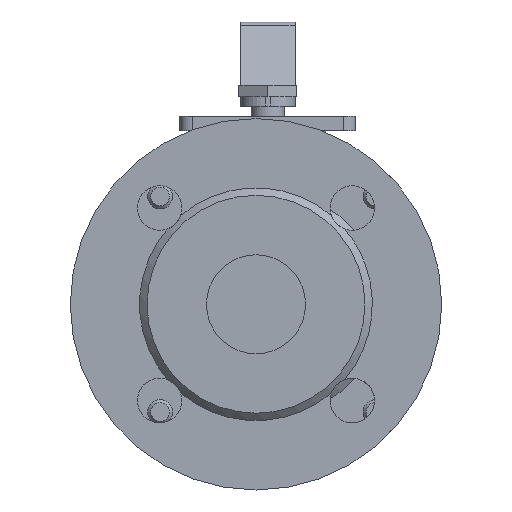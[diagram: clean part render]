
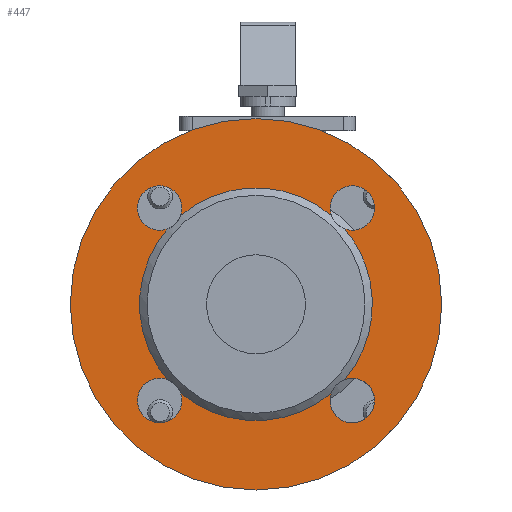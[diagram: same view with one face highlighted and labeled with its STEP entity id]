
A CAD part, left-side view. The second image highlights one B-rep face of the part: STEP entity #447.
In plain terms, the highlighted planar face has unit normal (-1, 0, 0).
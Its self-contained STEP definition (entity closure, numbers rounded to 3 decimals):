
#447=ADVANCED_FACE('',(#9442,#9444),#9446,.T.);
#9442=FACE_BOUND('',#9443,.T.);
#9443=EDGE_LOOP('',(#16508,#16509));
#9444=FACE_BOUND('',#9445,.T.);
#9445=EDGE_LOOP('',(#16510,#16511,#16512,#16513,#16514,#16515,#16516,#16517,#16518,
#16519,#16520,#16521));
#9446=PLANE('',#9447);
#9447=AXIS2_PLACEMENT_3D('',#9448,#9449,#9450);
#9448=CARTESIAN_POINT('',(6189.132,3957.673,54.248));
#9449=DIRECTION('',(-1.,0.,0.));
#9450=DIRECTION('',(0.,0.,1.));
#16508=ORIENTED_EDGE('',*,*,#22187,.F.);
#16509=ORIENTED_EDGE('',*,*,#22188,.F.);
#16510=ORIENTED_EDGE('',*,*,#22170,.T.);
#16511=ORIENTED_EDGE('',*,*,#22169,.T.);
#16512=ORIENTED_EDGE('',*,*,#22189,.T.);
#16513=ORIENTED_EDGE('',*,*,#22179,.T.);
#16514=ORIENTED_EDGE('',*,*,#22181,.T.);
#16515=ORIENTED_EDGE('',*,*,#22190,.T.);
#16516=ORIENTED_EDGE('',*,*,#22176,.T.);
#16517=ORIENTED_EDGE('',*,*,#22191,.T.);
#16518=ORIENTED_EDGE('',*,*,#22186,.T.);
#16519=ORIENTED_EDGE('',*,*,#22185,.T.);
#16520=ORIENTED_EDGE('',*,*,#22192,.T.);
#16521=ORIENTED_EDGE('',*,*,#22193,.T.);
#22169=EDGE_CURVE('',#25077,#25078,#25079,.T.);
#22170=EDGE_CURVE('',#25080,#25077,#25081,.T.);
#22176=EDGE_CURVE('',#25088,#25090,#25092,.T.);
#22179=EDGE_CURVE('',#25097,#25098,#25099,.T.);
#22181=EDGE_CURVE('',#25098,#25100,#25102,.T.);
#22185=EDGE_CURVE('',#25110,#25107,#25111,.T.);
#22186=EDGE_CURVE('',#25108,#25110,#25112,.T.);
#22187=EDGE_CURVE('',#25113,#25114,#25115,.T.);
#22188=EDGE_CURVE('',#25114,#25113,#25116,.T.);
#22189=EDGE_CURVE('',#25078,#25097,#25117,.T.);
#22190=EDGE_CURVE('',#25100,#25088,#25118,.T.);
#22191=EDGE_CURVE('',#25090,#25108,#25119,.T.);
#22192=EDGE_CURVE('',#25107,#25120,#25121,.T.);
#22193=EDGE_CURVE('',#25120,#25080,#25122,.T.);
#25077=VERTEX_POINT('',#30371);
#25078=VERTEX_POINT('',#30372);
#25079=CIRCLE('',#30373,9.);
#25080=VERTEX_POINT('',#30377);
#25081=CIRCLE('',#30378,9.);
#25088=VERTEX_POINT('',#30464);
#25090=VERTEX_POINT('',#30531);
#25092=CIRCLE('',#30548,9.);
#25097=VERTEX_POINT('',#30562);
#25098=VERTEX_POINT('',#30563);
#25099=CIRCLE('',#30564,9.);
#25100=VERTEX_POINT('',#30568);
#25102=CIRCLE('',#30640,9.);
#25107=VERTEX_POINT('',#30654);
#25108=VERTEX_POINT('',#30655);
#25110=VERTEX_POINT('',#30727);
#25111=CIRCLE('',#30728,9.);
#25112=CIRCLE('',#30732,9.);
#25113=VERTEX_POINT('',#30736);
#25114=VERTEX_POINT('',#30737);
#25115=CIRCLE('',#30738,75.);
#25116=CIRCLE('',#30742,75.);
#25117=CIRCLE('',#30746,47.);
#25118=CIRCLE('',#30750,47.);
#25119=CIRCLE('',#30754,47.);
#25120=VERTEX_POINT('',#30758);
#25121=CIRCLE('',#30759,47.);
#25122=CIRCLE('',#30763,47.);
#30371=CARTESIAN_POINT('',(6189.132,3923.946,-67.013));
#30372=CARTESIAN_POINT('',(6189.132,3927.241,-56.569));
#30373=AXIS2_PLACEMENT_3D('',#30374,#30375,#30376);
#30374=CARTESIAN_POINT('',(6189.132,3918.782,-59.642));
#30375=DIRECTION('',(1.,0.,0.));
#30376=DIRECTION('',(0.,0.574,-0.819));
#30377=CARTESIAN_POINT('',(6189.132,3921.855,-51.183));
#30378=AXIS2_PLACEMENT_3D('',#30379,#30380,#30381);
#30379=CARTESIAN_POINT('',(6189.132,3918.782,-59.642));
#30380=DIRECTION('',(1.,0.,0.));
#30381=DIRECTION('',(0.,0.341,0.94));
#30464=CARTESIAN_POINT('',(6189.132,3993.49,9.68));
#30531=CARTESIAN_POINT('',(6189.132,3988.105,15.066));
#30548=AXIS2_PLACEMENT_3D('',#30549,#30550,#30551);
#30549=CARTESIAN_POINT('',(6189.132,3996.564,18.139));
#30550=DIRECTION('',(1.,0.,0.));
#30551=DIRECTION('',(0.,-0.341,-0.94));
#30562=CARTESIAN_POINT('',(6189.132,3988.105,-56.569));
#30563=CARTESIAN_POINT('',(6189.132,4005.427,-61.203));
#30564=AXIS2_PLACEMENT_3D('',#30565,#30566,#30567);
#30565=CARTESIAN_POINT('',(6189.132,3996.564,-59.642));
#30566=DIRECTION('',(1.,0.,0.));
#30567=DIRECTION('',(0.,-0.94,0.341));
#30568=CARTESIAN_POINT('',(6189.132,3993.49,-51.183));
#30640=AXIS2_PLACEMENT_3D('',#30641,#30642,#30643);
#30641=CARTESIAN_POINT('',(6189.132,3996.564,-59.642));
#30642=DIRECTION('',(1.,0.,0.));
#30643=DIRECTION('',(0.,0.985,-0.173));
#30654=CARTESIAN_POINT('',(6189.132,3921.855,9.68));
#30655=CARTESIAN_POINT('',(6189.132,3927.241,15.066));
#30727=CARTESIAN_POINT('',(6189.132,3917.222,9.276));
#30728=AXIS2_PLACEMENT_3D('',#30729,#30730,#30731);
#30729=CARTESIAN_POINT('',(6189.132,3918.782,18.139));
#30730=DIRECTION('',(1.,0.,0.));
#30731=DIRECTION('',(0.,-0.173,-0.985));
#30732=AXIS2_PLACEMENT_3D('',#30733,#30734,#30735);
#30733=CARTESIAN_POINT('',(6189.132,3918.782,18.139));
#30734=DIRECTION('',(1.,0.,0.));
#30735=DIRECTION('',(0.,0.94,-0.341));
#30736=CARTESIAN_POINT('',(6189.132,3957.673,-95.752));
#30737=CARTESIAN_POINT('',(6189.132,3957.673,54.248));
#30738=AXIS2_PLACEMENT_3D('',#30739,#30740,#30741);
#30739=CARTESIAN_POINT('',(6189.132,3957.673,-20.752));
#30740=DIRECTION('',(1.,0.,0.));
#30741=DIRECTION('',(0.,0.,-1.));
#30742=AXIS2_PLACEMENT_3D('',#30743,#30744,#30745);
#30743=CARTESIAN_POINT('',(6189.132,3957.673,-20.752));
#30744=DIRECTION('',(1.,0.,0.));
#30745=DIRECTION('',(0.,0.,1.));
#30746=AXIS2_PLACEMENT_3D('',#30747,#30748,#30749);
#30747=CARTESIAN_POINT('',(6189.132,3957.673,-20.752));
#30748=DIRECTION('',(1.,0.,0.));
#30749=DIRECTION('',(0.,-0.647,-0.762));
#30750=AXIS2_PLACEMENT_3D('',#30751,#30752,#30753);
#30751=CARTESIAN_POINT('',(6189.132,3957.673,-20.752));
#30752=DIRECTION('',(1.,0.,0.));
#30753=DIRECTION('',(0.,0.762,-0.647));
#30754=AXIS2_PLACEMENT_3D('',#30755,#30756,#30757);
#30755=CARTESIAN_POINT('',(6189.132,3957.673,-20.752));
#30756=DIRECTION('',(1.,0.,0.));
#30757=DIRECTION('',(0.,0.647,0.762));
#30758=CARTESIAN_POINT('',(6189.132,3913.557,-4.541));
#30759=AXIS2_PLACEMENT_3D('',#30760,#30761,#30762);
#30760=CARTESIAN_POINT('',(6189.132,3957.673,-20.752));
#30761=DIRECTION('',(1.,0.,0.));
#30762=DIRECTION('',(0.,-0.762,0.647));
#30763=AXIS2_PLACEMENT_3D('',#30764,#30765,#30766);
#30764=CARTESIAN_POINT('',(6189.132,3957.673,-20.752));
#30765=DIRECTION('',(1.,0.,0.));
#30766=DIRECTION('',(0.,-0.939,0.345));
